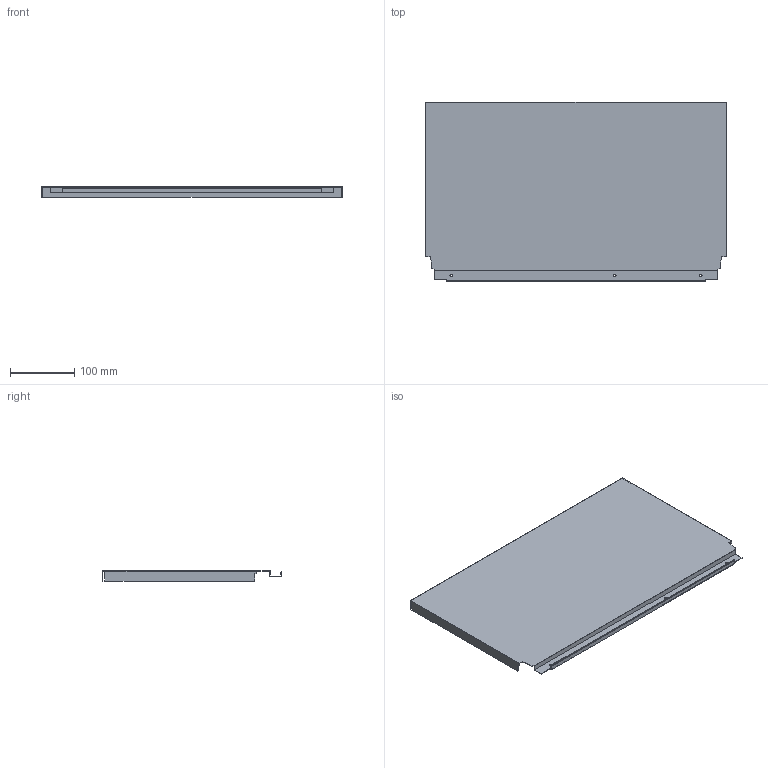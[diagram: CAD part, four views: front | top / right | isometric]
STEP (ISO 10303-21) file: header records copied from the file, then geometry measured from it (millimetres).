
FILE_DESCRIPTION (( 'STEP AP214' ), '1' );
FILE_NAME ('_DWD_XP Stahlrückwand_H278_KAB550_S16.step', '2010-07-08T13:03:46', ( 'grass' ), ( '' ), 'SwSTEP 2.0', 'SolidWorks 2010', '' );
FILE_SCHEMA (( 'AUTOMOTIVE_DESIGN' ));
Length unit declared in the file: millimetre
Products named in the file (1): _DWD_XP Stahlrückwand_H278_KAB550_S16
Bounding box: 467 x 278.57 x 16 mm (x, y, z)
Volume: 131663.4 mm3; surface area: 300645.1 mm2
Topology: 1 solids, 1 shells, 46 faces, 132 edges, 88 vertices
Faces by surface type: plane 40, cylinder 6
Entity records: 1534 total; most frequent: CARTESIAN_POINT 267, ORIENTED_EDGE 264, DIRECTION 238, EDGE_CURVE 132, VECTOR 120, LINE 120, VERTEX_POINT 88, AXIS2_PLACEMENT_3D 59
